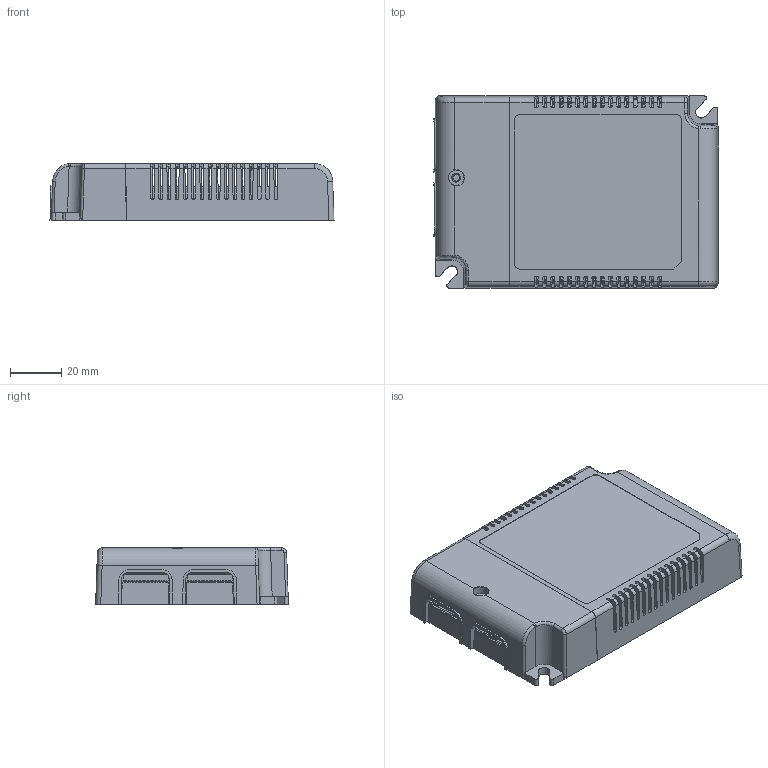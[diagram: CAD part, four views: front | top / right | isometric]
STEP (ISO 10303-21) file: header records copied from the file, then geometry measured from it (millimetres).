
FILE_DESCRIPTION(('Creo Elements/Direct Modeling STEP Export'),'2;1');
FILE_NAME('IDLC-25.stp','2018-05-30T14:11:46',(''),(''),'PTC Creo Elements/Direct Modeling STEP processor for AP214 (Solid Model)','PTC Creo Elements/Direct Modeling 19.0 09-May-2014 (C) Parametric Technology GmbH','');
FILE_SCHEMA(('AUTOMOTIVE_DESIGN { 1 0 10303 214 1 1 1 1 }'));
Length unit declared in the file: millimetre
Products named in the file (5): A-1_5_PRT_PRT.PRT.1; A-1_5_PRT_PRT.PRT; A-2_8_PRT.PRT; 25_ASM_5_ASM.ASM; IDLC-25.stp
Assembly tree (4 placements, depth 3):
  IDLC-25.stp
    25_ASM_5_ASM.ASM
      A-2_8_PRT.PRT
      A-1_5_PRT_PRT.PRT
      A-1_5_PRT_PRT.PRT.1
Bounding box: 110.5 x 75 x 22 mm (x, y, z)
Volume: 46183.9 mm3; surface area: 57282.1 mm2
Topology: 3 solids, 3 shells, 1441 faces, 4449 edges, 2968 vertices
Faces by surface type: plane 986, cylinder 396, cone 36, bspline 14, torus 9
Entity records: 57679 total; most frequent: CARTESIAN_POINT 12367, ORIENTED_EDGE 8898, DIRECTION 7715, EDGE_CURVE 4449, VECTOR 3293, LINE 3293, VERTEX_POINT 2968, AXIS2_PLACEMENT_3D 2211
